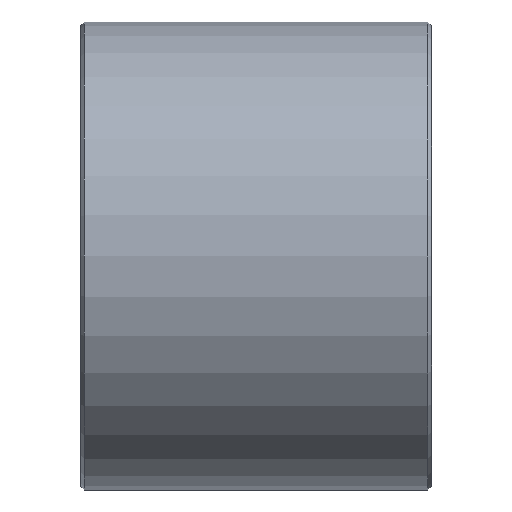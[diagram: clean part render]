
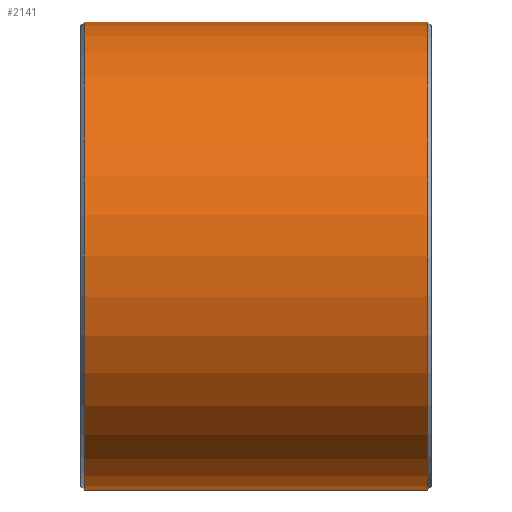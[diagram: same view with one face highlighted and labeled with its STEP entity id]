
A CAD part, front view. The second image highlights one B-rep face of the part: STEP entity #2141.
In plain terms, the highlighted cylindrical face has radius 30 mm (diameter 60 mm), a partial arc.
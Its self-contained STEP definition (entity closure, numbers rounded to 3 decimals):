
#89=DIRECTION('',(1.,0.,0.));
#90=VECTOR('',#89,44.);
#91=CARTESIAN_POINT('',(-22.,0.,
-30.));
#92=LINE('',#91,#90);
#140=CARTESIAN_POINT('',(22.,0.,0.));
#141=DIRECTION('',(1.,0.,0.));
#142=DIRECTION('',(0.,0.,1.));
#143=AXIS2_PLACEMENT_3D('',#140,#141,#142);
#145=CARTESIAN_POINT('',(-22.,0.,0.));
#146=DIRECTION('',(-1.,0.,0.));
#147=DIRECTION('',(0.,0.,-1.));
#148=AXIS2_PLACEMENT_3D('',#145,#146,#147);
#150=DIRECTION('',(1.,0.,0.));
#151=VECTOR('',#150,44.);
#152=CARTESIAN_POINT('',(-22.,0.,
30.));
#153=LINE('',#152,#151);
#2008=CARTESIAN_POINT('',(22.,0.,30.));
#2009=CARTESIAN_POINT('',(22.,0.,-30.));
#2010=VERTEX_POINT('',#2008);
#2011=VERTEX_POINT('',#2009);
#2016=CARTESIAN_POINT('',(-22.,0.,-30.));
#2017=CARTESIAN_POINT('',(-22.,0.,30.));
#2018=VERTEX_POINT('',#2016);
#2019=VERTEX_POINT('',#2017);
#2130=CARTESIAN_POINT('',(-22.5,0.,0.));
#2131=DIRECTION('',(1.,0.,0.));
#2132=DIRECTION('',(0.,0.,-1.));
#2133=AXIS2_PLACEMENT_3D('',#2130,#2131,#2132);
#2134=CYLINDRICAL_SURFACE('',#2133,30.);
#2135=ORIENTED_EDGE('',*,*,#2124,.T.);
#2136=ORIENTED_EDGE('',*,*,#2078,.F.);
#2137=ORIENTED_EDGE('',*,*,#2048,.T.);
#2138=ORIENTED_EDGE('',*,*,#2075,.T.);
#2139=EDGE_LOOP('',(#2135,#2136,#2137,#2138));
#2140=FACE_OUTER_BOUND('',#2139,.F.);
#2141=ADVANCED_FACE('',(#2140),#2134,.T.);
#144=CIRCLE('',#143,30.);
#149=CIRCLE('',#148,30.);
#2048=EDGE_CURVE('',#2018,#2019,#149,.T.);
#2075=EDGE_CURVE('',#2019,#2010,#153,.T.);
#2078=EDGE_CURVE('',#2018,#2011,#92,.T.);
#2124=EDGE_CURVE('',#2010,#2011,#144,.T.);
